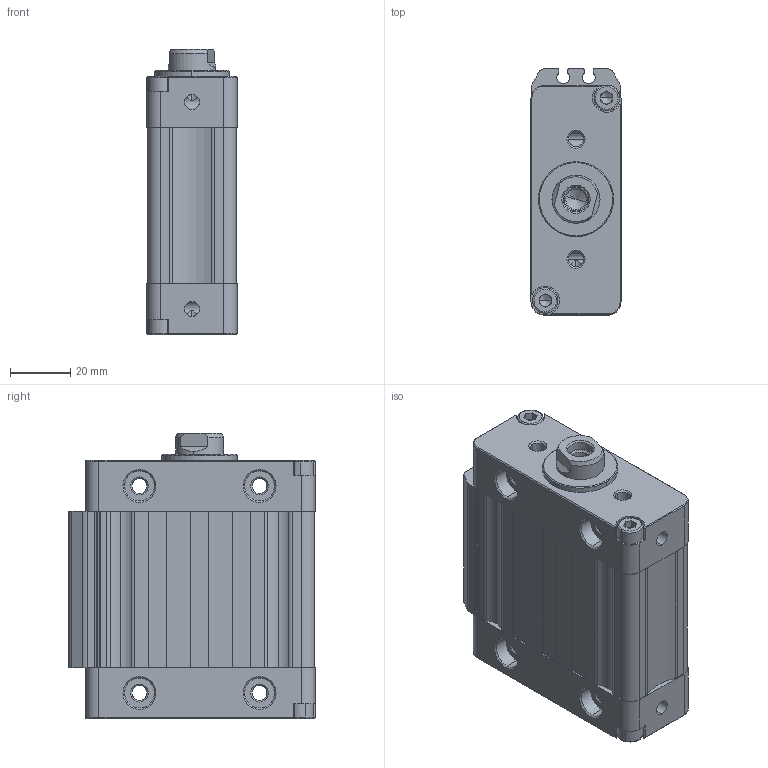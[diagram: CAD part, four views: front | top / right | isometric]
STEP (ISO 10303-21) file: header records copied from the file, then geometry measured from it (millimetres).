
FILE_DESCRIPTION (( 'STEP AP214' ), '1' );
FILE_NAME ('WOC-040-0010 (3D).STEP', '2020-05-22T07:59:38', ( '' ), ( '' ), 'SwSTEP 2.0', 'SolidWorks 2016', '' );
FILE_SCHEMA (( 'AUTOMOTIVE_DESIGN' ));
Length unit declared in the file: millimetre
Products named in the file (5): Group1^WOC-040-0010 (3D); Group4^WOC-040-0010 (3D); Group3^WOC-040-0010 (3D); WOC-040-0010 (3D); Group2^WOC-040-0010 (3D)
Assembly tree (4 placements, depth 2):
  WOC-040-0010 (3D)
    Group1^WOC-040-0010 (3D)
    Group2^WOC-040-0010 (3D)
    Group3^WOC-040-0010 (3D)
    Group4^WOC-040-0010 (3D)
Bounding box: 30 x 82 x 95 mm (x, y, z)
Volume: 180032.6 mm3; surface area: 51970.1 mm2
Topology: 10 solids, 10 shells, 624 faces, 1586 edges, 1016 vertices
Faces by surface type: plane 323, cylinder 140, cone 84, bspline 77
Entity records: 25391 total; most frequent: CARTESIAN_POINT 8110, ORIENTED_EDGE 3148, DIRECTION 2866, EDGE_CURVE 1574, VERTEX_POINT 1016, LINE 994, VECTOR 994, AXIS2_PLACEMENT_3D 936
